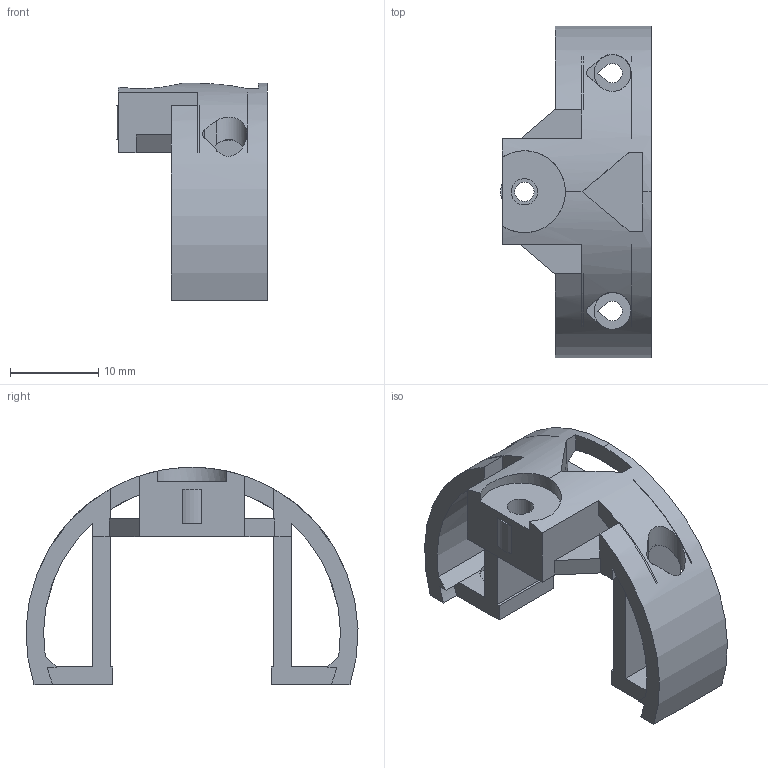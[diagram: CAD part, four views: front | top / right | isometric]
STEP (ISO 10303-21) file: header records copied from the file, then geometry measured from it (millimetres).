
FILE_DESCRIPTION(('SkyG Speed 90B - revision C6B-22 - 2026-10-16','HL2-hatch-lip-rear'),'2;1');
FILE_NAME('HL2-hatch-lip-rear_C6B-22','2026-10-16T19:15:21',('Author'),( 'Open CASCADE'),'Open CASCADE STEP processor 7.9','Open CASCADE 7.9' ,'Unknown');
FILE_SCHEMA(('AUTOMOTIVE_DESIGN { 1 0 10303 214 1 1 1 1 }'));
Length unit declared in the file: millimetre
Products named in the file (7): HL2-hatch-lip-rear C6B-22; Open CASCADE STEP translator 7.9 26.1; Open CASCADE STEP translator 7.9 26.1.1; Open CASCADE STEP translator 7.9 26.1.2; Open CASCADE STEP translator 7.9 26.1.3; Open CASCADE STEP translator 7.9 26.1.4; Open CASCADE STEP translator 7.9 26.1.5
Assembly tree (6 placements, depth 3):
  HL2-hatch-lip-rear C6B-22
    Open CASCADE STEP translator 7.9 26.1
      Open CASCADE STEP translator 7.9 26.1.1
      Open CASCADE STEP translator 7.9 26.1.2
      Open CASCADE STEP translator 7.9 26.1.3
      Open CASCADE STEP translator 7.9 26.1.4
      Open CASCADE STEP translator 7.9 26.1.5
Bounding box: 17.09 x 37.68 x 24.65 mm (x, y, z)
Volume: 3256.1 mm3; surface area: 3498.6 mm2
Topology: 1 solids, 5 shells, 84 faces, 270 edges, 187 vertices
Faces by surface type: plane 55, cylinder 28, cone 1
Full cylindrical faces by diameter (mm): 2.2 x1, 3 x1, 4.2 x2
Entity records: 8729 total; most frequent: CARTESIAN_POINT 3580, DIRECTION 904, ORIENTED_EDGE 516, PCURVE 516, DEFINITIONAL_REPRESENTATION 516, LINE 488, VECTOR 488, EDGE_CURVE 270
